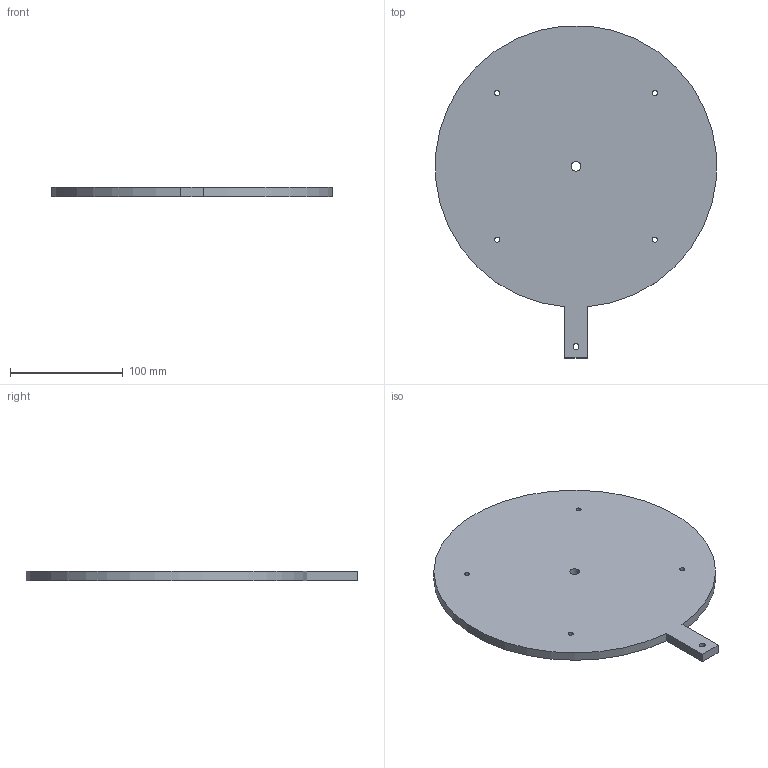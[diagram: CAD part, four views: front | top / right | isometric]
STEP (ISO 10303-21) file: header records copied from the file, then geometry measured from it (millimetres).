
FILE_DESCRIPTION(('Open CASCADE Model'),'2;1');
FILE_NAME('Open CASCADE Shape Model','2026-10-21T16:53:53',('Author'),( 'Open CASCADE'),'Open CASCADE STEP processor 7.9','Open CASCADE 7.9' ,'Unknown');
FILE_SCHEMA(('AUTOMOTIVE_DESIGN { 1 0 10303 214 1 1 1 1 }'));
Length unit declared in the file: millimetre
Products named in the file (1): Open CASCADE STEP translator 7.9 22
Bounding box: 249.12 x 294.52 x 8 mm (x, y, z)
Volume: 398781 mm3; surface area: 107503.9 mm2
Topology: 1 solids, 1 shells, 12 faces, 30 edges, 20 vertices
Faces by surface type: cylinder 7, plane 5
Full cylindrical faces by diameter (mm): 4.5 x4, 5.3 x1, 8.5 x1
Entity records: 831 total; most frequent: CARTESIAN_POINT 201, DIRECTION 117, LINE 62, VECTOR 62, ORIENTED_EDGE 60, PCURVE 60, DEFINITIONAL_REPRESENTATION 60, EDGE_CURVE 30
